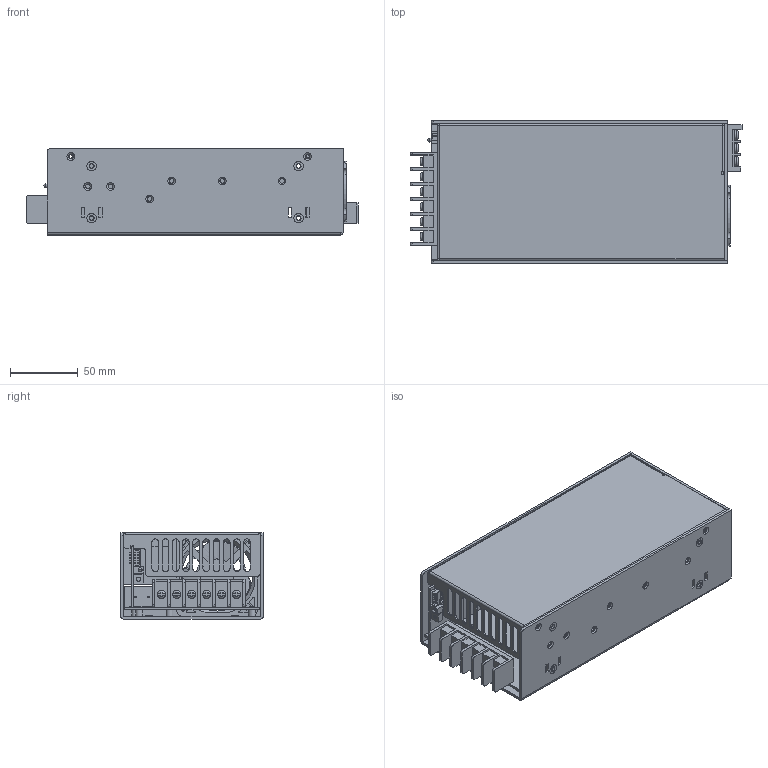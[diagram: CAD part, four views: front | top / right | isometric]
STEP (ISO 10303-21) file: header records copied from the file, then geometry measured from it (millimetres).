
FILE_DESCRIPTION((''),'2;1');
FILE_NAME('C:\Users\shirley\Desktop\HRPG-600.stp','2021-04-08T13:29:46',('shirley'),(''),'Autodesk Inventor 2010','Autodesk Inventor 2010','');
FILE_SCHEMA(('AUTOMOTIVE_DESIGN { 1 0 10303 214 1 1 1 1 }'));
Length unit declared in the file: millimetre
Products named in the file (20): HRPG-600; a1; ºÝ¤l1; pcb-2; LED; PCB2; PCB; VR; ºÝ¤l2; FAN-ALL; FAN_4715KL40WB30_2; FAN; COVER; BASE; M3-7L.1; p2; ff.2.2; DF11-10DP-2DS; DF11-10DP-2DSÈª
Assembly tree (30 placements, depth 5):
  HRPG-600
    a1
      a1
        ºÝ¤l1
        pcb-2
          LED
          PCB2
          PCB
          VR
        ºÝ¤l2
    FAN-ALL
      FAN_4715KL40WB30_2
      FAN
    COVER
    BASE
      M3-7L.1  x5
      p2
      ff.2.2  x8
    DF11-10DP-2DS
      DF11-10DP-2DSÈª
Bounding box: 244.45 x 105 x 63.5 mm (x, y, z)
Volume: 219471.5 mm3; surface area: 252514.9 mm2
Topology: 23 solids, 24 shells, 1353 faces, 3465 edges, 2215 vertices
Faces by surface type: plane 920, cylinder 313, bspline 62, cone 36, torus 22
Full cylindrical faces by diameter (mm): 2.381 x4, 2.65 x5, 3 x7, 3.1 x4, 3.2 x8, 3.4 x13, 4 x8, 4.09 x5, 4.7 x2, 4.72 x8, 5 x5, 5.5 x1, 6 x6, 6.5 x5, 7 x19, 24.286 x1, 24.762 x1, 52.381 x1
Entity records: 50706 total; most frequent: CARTESIAN_POINT 19574, ORIENTED_EDGE 6206, DIRECTION 6111, EDGE_CURVE 3107, VECTOR 2167, LINE 2167, VERTEX_POINT 2050, AXIS2_PLACEMENT_3D 1972
